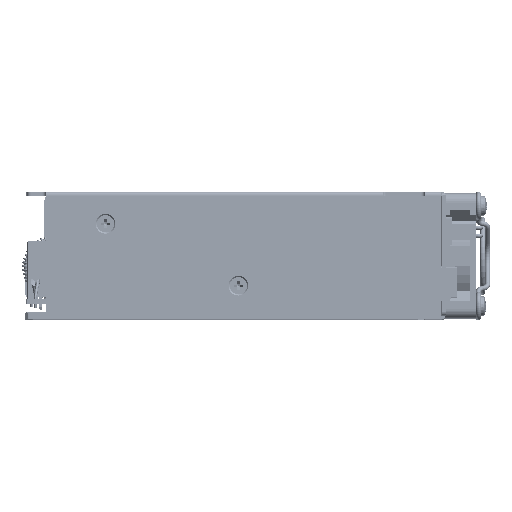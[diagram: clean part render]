
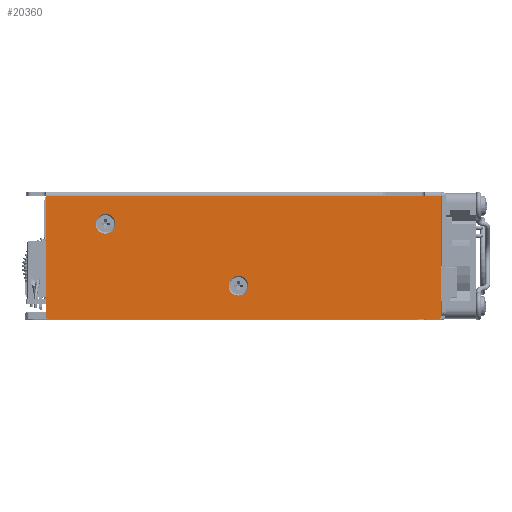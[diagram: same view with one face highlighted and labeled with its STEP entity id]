
A CAD part, top view. The second image highlights one B-rep face of the part: STEP entity #20360.
In plain terms, the highlighted planar face has unit normal (0.007, 0, 1).
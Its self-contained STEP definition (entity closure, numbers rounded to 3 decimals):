
#272 = ORIENTED_EDGE ( 'NONE', *, *, #90976, .F. ) ;
#13190 = VERTEX_POINT ( 'NONE', #226499 ) ;
#19151 = LINE ( 'NONE', #28947, #125146 ) ;
#20360 = ADVANCED_FACE ( 'NONE', ( #166156, #53408, #215732 ), #196907, .F. ) ;
#20739 = CARTESIAN_POINT ( 'NONE',  ( -47.322, 24.414, 167.636 ) ) ;
#21657 = EDGE_CURVE ( 'NONE', #201956, #69126, #134714, .T. ) ;
#23058 = ORIENTED_EDGE ( 'NONE', *, *, #271793, .T. ) ;
#23219 = VERTEX_POINT ( 'NONE', #20739 ) ;
#25917 = LINE ( 'NONE', #168624, #131866 ) ;
#28947 = CARTESIAN_POINT ( 'NONE',  ( 41.064, 30.204, 167.002 ) ) ;
#38228 = ORIENTED_EDGE ( 'NONE', *, *, #67800, .T. ) ;
#42458 = DIRECTION ( 'NONE',  ( 0., 1., 0. ) ) ;
#43185 = EDGE_CURVE ( 'NONE', #97350, #82698, #115477, .T. ) ;
#45394 = VECTOR ( 'NONE', #104712, 1000. ) ;
#53408 = FACE_OUTER_BOUND ( 'NONE', #106547, .T. ) ;
#64768 = DIRECTION ( 'NONE',  ( 0.007, 0., 1. ) ) ;
#65194 = CARTESIAN_POINT ( 'NONE',  ( -66.241, 30.204, 167.772 ) ) ;
#67800 = EDGE_CURVE ( 'NONE', #207623, #172497, #25917, .T. ) ;
#69126 = VERTEX_POINT ( 'NONE', #114180 ) ;
#70863 = CARTESIAN_POINT ( 'NONE',  ( -66.241, -9.236, 167.772 ) ) ;
#71355 = CARTESIAN_POINT ( 'NONE',  ( -66.241, -9.236, 167.772 ) ) ;
#71405 = DIRECTION ( 'NONE',  ( 1., 0., -0.007 ) ) ;
#76738 = CARTESIAN_POINT ( 'NONE',  ( -65.641, -8.636, 167.767 ) ) ;
#82698 = VERTEX_POINT ( 'NONE', #65194 ) ;
#89100 = CARTESIAN_POINT ( 'NONE',  ( -47.322, 21.264, 167.636 ) ) ;
#90976 = EDGE_CURVE ( 'NONE', #97350, #172497, #19151, .T. ) ;
#91286 = ORIENTED_EDGE ( 'NONE', *, *, #21657, .T. ) ;
#92244 = DIRECTION ( 'NONE',  ( 0., -1., 0. ) ) ;
#97350 = VERTEX_POINT ( 'NONE', #173751 ) ;
#97939 = CARTESIAN_POINT ( 'NONE',  ( 58.66, -8.036, 166.876 ) ) ;
#98101 = DIRECTION ( 'NONE',  ( 0., -1., 0. ) ) ;
#100345 = AXIS2_PLACEMENT_3D ( 'NONE', #76738, #224969, #98101 ) ;
#101718 = LINE ( 'NONE', #167766, #45394 ) ;
#104712 = DIRECTION ( 'NONE',  ( 0., 1., 0. ) ) ;
#106547 = EDGE_LOOP ( 'NONE', ( #192485, #91286, #23058, #38228, #272, #186050, #159067, #198889 ) ) ;
#107785 = CIRCLE ( 'NONE', #165175, 3.15 ) ;
#108828 = EDGE_CURVE ( 'NONE', #183640, #13190, #141754, .T. ) ;
#110372 = DIRECTION ( 'NONE',  ( 0., 1., 0. ) ) ;
#114180 = CARTESIAN_POINT ( 'NONE',  ( 59.86, -8.036, 166.868 ) ) ;
#115477 = LINE ( 'NONE', #117677, #234620 ) ;
#117677 = CARTESIAN_POINT ( 'NONE',  ( -66.241, 30.204, 167.772 ) ) ;
#119288 = DIRECTION ( 'NONE',  ( 0., -1., 0. ) ) ;
#120506 = CARTESIAN_POINT ( 'NONE',  ( -4.939, 4.665, 167.332 ) ) ;
#123671 = CARTESIAN_POINT ( 'NONE',  ( -66.241, -8.636, 167.772 ) ) ;
#125146 = VECTOR ( 'NONE', #71405, 1000. ) ;
#125251 = CARTESIAN_POINT ( 'NONE',  ( 59.86, 30.204, 166.868 ) ) ;
#128104 = VECTOR ( 'NONE', #218624, 1000. ) ;
#128182 = VECTOR ( 'NONE', #42458, 1000. ) ;
#131866 = VECTOR ( 'NONE', #189908, 1000. ) ;
#134714 = CIRCLE ( 'NONE', #185924, 1.2 ) ;
#135077 = AXIS2_PLACEMENT_3D ( 'NONE', #191718, #64768, #212930 ) ;
#141754 = CIRCLE ( 'NONE', #100345, 0.6 ) ;
#142581 = EDGE_CURVE ( 'NONE', #183640, #82698, #101718, .T. ) ;
#148044 = CARTESIAN_POINT ( 'NONE',  ( 59.86, -9.237, 166.868 ) ) ;
#151423 = EDGE_CURVE ( 'NONE', #23219, #23219, #107785, .T. ) ;
#157114 = AXIS2_PLACEMENT_3D ( 'NONE', #70863, #219044, #92244 ) ;
#159067 = ORIENTED_EDGE ( 'NONE', *, *, #142581, .F. ) ;
#165175 = AXIS2_PLACEMENT_3D ( 'NONE', #89100, #237071, #110372 ) ;
#166156 = FACE_BOUND ( 'NONE', #182342, .T. ) ;
#167766 = CARTESIAN_POINT ( 'NONE',  ( -66.241, -9.236, 167.772 ) ) ;
#168184 = CARTESIAN_POINT ( 'NONE',  ( 54.66, 30.204, 166.905 ) ) ;
#168624 = CARTESIAN_POINT ( 'NONE',  ( -66.241, 30.204, 167.772 ) ) ;
#172497 = VERTEX_POINT ( 'NONE', #168184 ) ;
#173751 = CARTESIAN_POINT ( 'NONE',  ( 41.064, 30.204, 167.002 ) ) ;
#181532 = DIRECTION ( 'NONE',  ( -1., 0., 0.007 ) ) ;
#182342 = EDGE_LOOP ( 'NONE', ( #201205 ) ) ;
#183640 = VERTEX_POINT ( 'NONE', #123671 ) ;
#185924 = AXIS2_PLACEMENT_3D ( 'NONE', #97939, #245929, #119288 ) ;
#186050 = ORIENTED_EDGE ( 'NONE', *, *, #43185, .T. ) ;
#189908 = DIRECTION ( 'NONE',  ( -1., 0., 0.007 ) ) ;
#191718 = CARTESIAN_POINT ( 'NONE',  ( -4.939, 1.515, 167.332 ) ) ;
#192485 = ORIENTED_EDGE ( 'NONE', *, *, #225619, .T. ) ;
#196907 = PLANE ( 'NONE',  #157114 ) ;
#198889 = ORIENTED_EDGE ( 'NONE', *, *, #108828, .T. ) ;
#201205 = ORIENTED_EDGE ( 'NONE', *, *, #216676, .F. ) ;
#201956 = VERTEX_POINT ( 'NONE', #257805 ) ;
#207623 = VERTEX_POINT ( 'NONE', #125251 ) ;
#212930 = DIRECTION ( 'NONE',  ( 0., 1., 0. ) ) ;
#213771 = CIRCLE ( 'NONE', #135077, 3.15 ) ;
#215732 = FACE_BOUND ( 'NONE', #227556, .T. ) ;
#216676 = EDGE_CURVE ( 'NONE', #231206, #231206, #213771, .T. ) ;
#218624 = DIRECTION ( 'NONE',  ( 1., 0., -0.007 ) ) ;
#219044 = DIRECTION ( 'NONE',  ( -0.007, 0., -1. ) ) ;
#222747 = ORIENTED_EDGE ( 'NONE', *, *, #151423, .F. ) ;
#224969 = DIRECTION ( 'NONE',  ( 0.007, 0., 1. ) ) ;
#225619 = EDGE_CURVE ( 'NONE', #13190, #201956, #240595, .T. ) ;
#226499 = CARTESIAN_POINT ( 'NONE',  ( -65.641, -9.236, 167.767 ) ) ;
#227556 = EDGE_LOOP ( 'NONE', ( #222747 ) ) ;
#231206 = VERTEX_POINT ( 'NONE', #120506 ) ;
#234620 = VECTOR ( 'NONE', #181532, 1000. ) ;
#237071 = DIRECTION ( 'NONE',  ( 0.007, 0., 1. ) ) ;
#240595 = LINE ( 'NONE', #71355, #128104 ) ;
#240657 = LINE ( 'NONE', #148044, #128182 ) ;
#245929 = DIRECTION ( 'NONE',  ( 0.007, 0., 1. ) ) ;
#257805 = CARTESIAN_POINT ( 'NONE',  ( 58.66, -9.236, 166.876 ) ) ;
#271793 = EDGE_CURVE ( 'NONE', #69126, #207623, #240657, .T. ) ;
